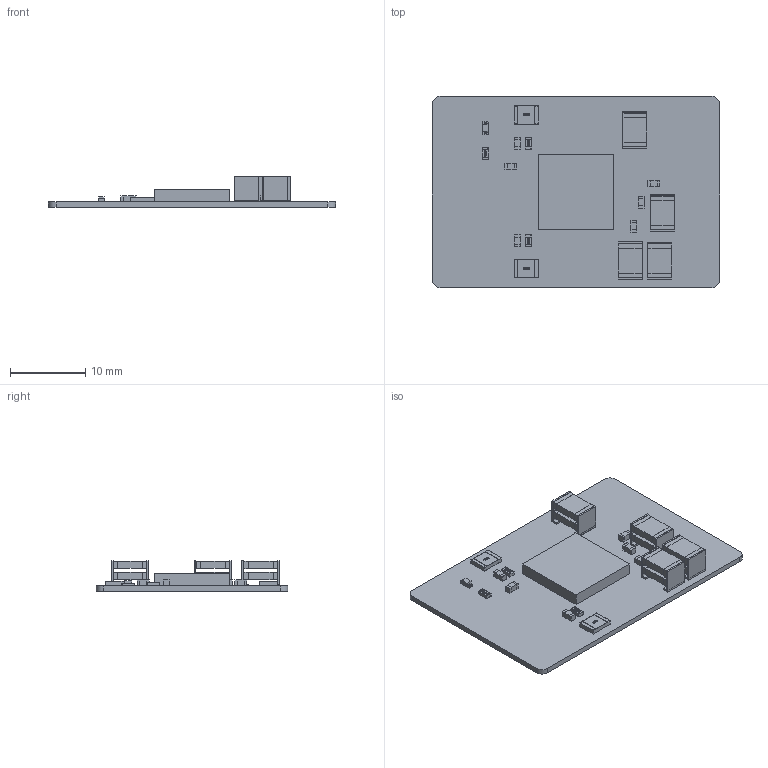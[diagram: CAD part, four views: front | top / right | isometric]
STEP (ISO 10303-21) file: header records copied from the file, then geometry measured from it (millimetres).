
FILE_DESCRIPTION(('Open CASCADE Model'),'2;1');
FILE_NAME('Open CASCADE Shape Model','2017-08-15T21:37:26',('Author'),( 'Open CASCADE'),'Open CASCADE STEP processor 6.8','Open CASCADE 6.8' ,'Unknown');
FILE_SCHEMA(('AUTOMOTIVE_DESIGN { 1 0 10303 214 1 1 1 1 }'));
Products named in the file (1): PCB
Bounding box: 38.1 x 25.4 x 4.07 mm (x, y, z)
Volume: 886.9 mm3; surface area: 3066.7 mm2
Topology: 28 solids, 729 shells, 1186 faces, 4464 edges, 3923 vertices
Faces by surface type: plane 647, cylinder 234, bspline 193, sphere 112
Entity records: 65334 total; most frequent: CARTESIAN_POINT 24535, DIRECTION 6689, ORIENTED_EDGE 5406, EDGE_CURVE 4352, VERTEX_POINT 3923, LINE 2845, VECTOR 2845, AXIS2_PLACEMENT_3D 1922
